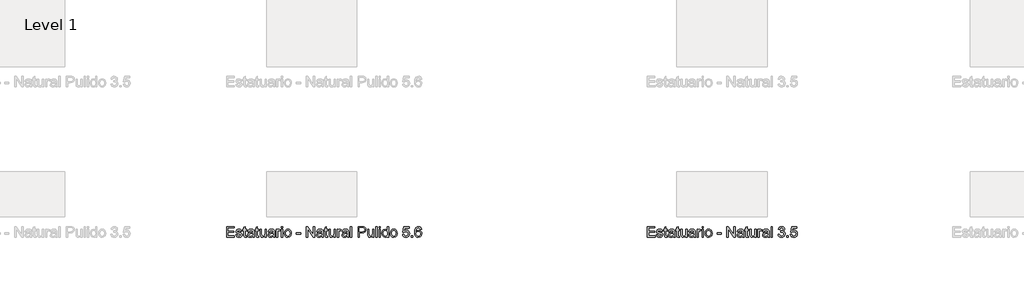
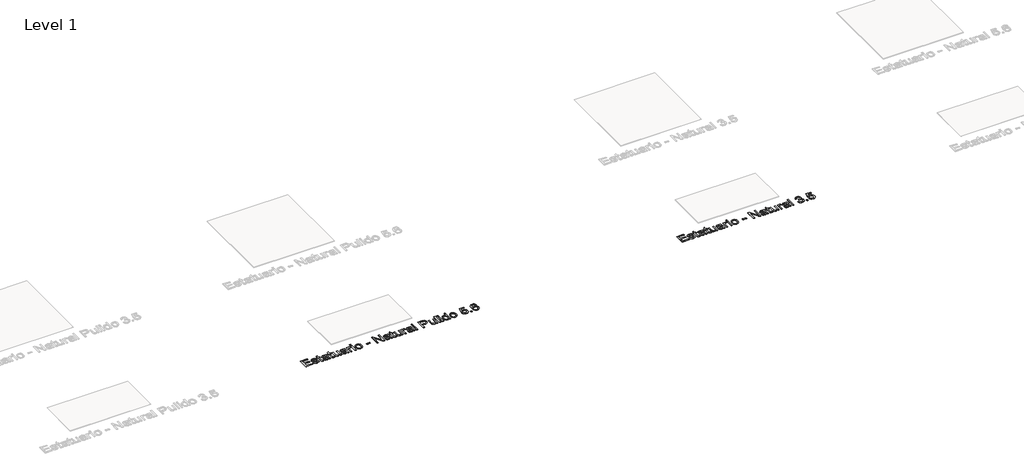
# One storey, part 72 of 80: 2 proxies.
"""IFC4 building model written with IfcOpenShell, lengths in millimetres."""

from ifc_helpers import new_model, si_unit, origin, origin_with_axes, place, context, project, spatial, polyline, outline, extrude, element, save

model = new_model("IFC4")

# Units and contexts
model_context = context("Model", 3, world=origin())
ifc_project = project(units=[si_unit("LENGTHUNIT", "METRE", prefix="MILLI")], contexts=[model_context])

# Site, building, storey
site = spatial("IfcSite", under=ifc_project)
building = spatial("IfcBuilding", under=site)
storey = spatial("IfcBuildingStorey", under=building, Name="Level 1", Elevation=0.0)

# Proxies
placement = place(None, origin())
element("IfcBuildingElementProxy", 1, Name="24\" Arial", ObjectType="24\" Arial", at=placement, inside=storey, context=model_context, shape_type="SweptSolid", body=[
    extrude(outline(polyline([(7830.1546613, 15588.6835141), (7830.1546613, 15706.8373603), (7915.0777383, 15706.8373603), (7915.0777383, 15692.0681295), (7844.9238921, 15692.0681295), (7844.9238921, 15656.9912064), (7911.3854306, 15656.9912064), (7911.3854306, 15642.2219757), (7844.9238921, 15642.2219757), (7844.9238921, 15603.4527449), (7916.9238921, 15603.4527449), (7916.9238921, 15588.6835141), (7830.1546613, 15588.6835141)])), origin_with_axes(), (0.0, 0.0, 1.0), 2.0),
    extrude(outline(polyline([(7931.6931229, 15614.529668), (7946.4623536, 15616.3758218), (7953.2988921, 15605.4142834), (7968.9623536, 15601.6065911), (7984.0200459, 15605.0969757), (7988.9238921, 15613.2892834), (7983.9911998, 15619.9238987), (7968.7892767, 15624.1354372), (7946.5488921, 15631.3613987), (7936.8421613, 15639.7988987), (7933.5392767, 15651.7123603), (7936.1931229, 15662.717168), (7943.4335075, 15671.1258218), (7952.8229306, 15675.4960141), (7965.5296613, 15677.2988987), (7983.5008152, 15674.3998603), (7994.9238921, 15666.5537064), (8000.0008152, 15653.2988987), (7985.2315844, 15651.4527449), (7979.6786998, 15659.6017834), (7966.6835075, 15662.529668), (7952.5488921, 15659.7315911), (7948.3085075, 15653.2123603), (7950.0681229, 15648.9142834), (7955.5777383, 15645.654668), (7968.2988921, 15642.5104372), (7989.9767767, 15635.5585141), (8000.0440844, 15627.6835141), (8003.6931229, 15614.8469757), (7999.409469, 15600.7123603), (7987.0488921, 15590.4575526), (7968.7604306, 15586.8373603), (7953.8686036, 15588.5825526), (7943.0008152, 15593.8181295), (7935.7460075, 15602.4863987), (7931.6931229, 15614.529668)])), origin_with_axes(), (0.0, 0.0, 1.0), 2.0),
    extrude(outline(polyline([(8051.6931229, 15601.0008218), (8053.5392767, 15588.2508218), (8042.4911998, 15586.8373603), (8030.1161998, 15589.2892834), (8023.9431229, 15595.7219757), (8022.1546613, 15612.4815911), (8022.1546613, 15660.6835141), (8011.0777383, 15660.6835141), (8011.0777383, 15675.4527449), (8022.1546613, 15675.4527449), (8022.1546613, 15696.5392834), (8036.9238921, 15705.2219757), (8036.9238921, 15675.4527449), (8051.6931229, 15675.4527449), (8051.6931229, 15660.6835141), (8036.9238921, 15660.6835141), (8036.9238921, 15612.9142834), (8037.7027383, 15605.2988987), (8040.2267767, 15602.6017834), (8045.2604306, 15601.6065911), (8051.6931229, 15601.0008218)])), origin_with_axes(), (0.0, 0.0, 1.0), 2.0),
    extrude(outline(polyline([(8121.846969, 15599.7604372), (8107.5248536, 15589.7508218), (8091.7027383, 15586.8373603), (8079.3601902, 15588.5897641), (8070.2556229, 15593.8469757), (8064.6414402, 15601.8301487), (8062.7700459, 15611.7604372), (8065.596969, 15623.4431295), (8073.0248536, 15631.9238987), (8083.3661998, 15636.7700526), (8096.1450459, 15638.9912064), (8121.7604306, 15644.0681295), (8121.846969, 15647.3565911), (8117.7796613, 15658.2604372), (8101.4527383, 15662.529668), (8086.5104306, 15659.6883218), (8079.3854306, 15649.6065911), (8064.6161998, 15651.4527449), (8071.0056229, 15665.8758218), (8083.8710075, 15674.3277449), (8103.3565844, 15677.2988987), (8121.2556229, 15674.6738987), (8131.3661998, 15668.0825526), (8135.8950459, 15658.0585141), (8136.6161998, 15645.1354372), (8136.6161998, 15626.7604372), (8137.3661998, 15601.1017834), (8140.3085075, 15588.6835141), (8125.5392767, 15588.6835141), (8121.846969, 15599.7604372)]), holes=[polyline([(8121.846969, 15629.2988987), (8098.0200459, 15624.7700526), (8085.3133152, 15622.3758218), (8079.5585075, 15618.4815911), (8077.5392767, 15612.7988987), (8081.9383152, 15604.8085141), (8094.846969, 15601.6065911), (8109.7892767, 15605.1402449), (8119.4238921, 15613.6931295), (8121.7604306, 15625.1162064), (8121.846969, 15629.2988987)])]), origin_with_axes(), (0.0, 0.0, 1.0), 2.0),
    extrude(outline(polyline([(8188.3085075, 15601.0008218), (8190.1546613, 15588.2508218), (8179.1065844, 15586.8373603), (8166.7315844, 15589.2892834), (8160.5585075, 15595.7219757), (8158.7700459, 15612.4815911), (8158.7700459, 15660.6835141), (8147.6931229, 15660.6835141), (8147.6931229, 15675.4527449), (8158.7700459, 15675.4527449), (8158.7700459, 15696.5392834), (8173.5392767, 15705.2219757), (8173.5392767, 15675.4527449), (8188.3085075, 15675.4527449), (8188.3085075, 15660.6835141), (8173.5392767, 15660.6835141), (8173.5392767, 15612.9142834), (8174.3181229, 15605.2988987), (8176.8421613, 15602.6017834), (8181.8758152, 15601.6065911), (8188.3085075, 15601.0008218)])), origin_with_axes(), (0.0, 0.0, 1.0), 2.0),
    extrude(outline(polyline([(8258.4623536, 15588.6835141), (8258.4623536, 15603.5969757), (8246.8950459, 15591.0272641), (8231.8085075, 15586.8373603), (8217.9190844, 15589.779668), (8208.3421613, 15597.1642834), (8203.9431229, 15608.0392834), (8203.0777383, 15621.7700526), (8203.0777383, 15675.4527449), (8217.846969, 15675.4527449), (8217.846969, 15628.7219757), (8218.7411998, 15613.6642834), (8224.5825459, 15604.8229372), (8235.5873536, 15601.6065911), (8247.9190844, 15604.8950526), (8256.0681229, 15613.8517834), (8258.4623536, 15630.3085141), (8258.4623536, 15675.4527449), (8273.2315844, 15675.4527449), (8273.2315844, 15588.6835141), (8258.4623536, 15588.6835141)])), origin_with_axes(), (0.0, 0.0, 1.0), 2.0),
    extrude(outline(polyline([(8348.9238921, 15599.7604372), (8334.6017767, 15589.7508218), (8318.7796613, 15586.8373603), (8306.4371133, 15588.5897641), (8297.3325459, 15593.8469757), (8291.7183633, 15601.8301487), (8289.846969, 15611.7604372), (8292.6738921, 15623.4431295), (8300.1017767, 15631.9238987), (8310.4431229, 15636.7700526), (8323.221969, 15638.9912064), (8348.8373536, 15644.0681295), (8348.9238921, 15647.3565911), (8344.8565844, 15658.2604372), (8328.5296613, 15662.529668), (8313.5873536, 15659.6883218), (8306.4623536, 15649.6065911), (8291.6931229, 15651.4527449), (8298.0825459, 15665.8758218), (8310.9479306, 15674.3277449), (8330.4335075, 15677.2988987), (8348.3325459, 15674.6738987), (8358.4431229, 15668.0825526), (8362.971969, 15658.0585141), (8363.6931229, 15645.1354372), (8363.6931229, 15626.7604372), (8364.4431229, 15601.1017834), (8367.3854306, 15588.6835141), (8352.6161998, 15588.6835141), (8348.9238921, 15599.7604372)]), holes=[polyline([(8348.9238921, 15629.2988987), (8325.096969, 15624.7700526), (8312.3902383, 15622.3758218), (8306.6354306, 15618.4815911), (8304.6161998, 15612.7988987), (8309.0152383, 15604.8085141), (8321.9238921, 15601.6065911), (8336.8661998, 15605.1402449), (8346.5008152, 15613.6931295), (8348.8373536, 15625.1162064), (8348.9238921, 15629.2988987)])]), origin_with_axes(), (0.0, 0.0, 1.0), 2.0),
    extrude(outline(polyline([(8384.0008152, 15588.6835141), (8384.0008152, 15675.4527449), (8396.9238921, 15675.4527449), (8396.9238921, 15662.6162064), (8406.096969, 15674.4431295), (8415.3277383, 15677.2988987), (8430.1546613, 15672.7412064), (8425.221969, 15659.5008218), (8414.8373536, 15662.529668), (8406.4863921, 15659.6162064), (8401.1642767, 15651.5392834), (8398.7700459, 15634.2892834), (8398.7700459, 15588.6835141), (8384.0008152, 15588.6835141)])), origin_with_axes(), (0.0, 0.0, 1.0), 2.0),
    extrude(outline(polyline([(8439.3854306, 15692.0681295), (8439.3854306, 15706.8373603), (8454.1546613, 15706.8373603), (8454.1546613, 15692.0681295), (8439.3854306, 15692.0681295)])), origin_with_axes(), (0.0, 0.0, 1.0), 2.0),
    extrude(outline(polyline([(8439.3854306, 15588.6835141), (8439.3854306, 15675.4527449), (8454.1546613, 15675.4527449), (8454.1546613, 15588.6835141), (8439.3854306, 15588.6835141)])), origin_with_axes(), (0.0, 0.0, 1.0), 2.0),
    extrude(outline(polyline([(8472.6161998, 15632.0681295), (8475.8109113, 15652.9888026), (8485.3950459, 15667.6931295), (8497.2363921, 15674.8974564), (8511.4142767, 15677.2988987), (8526.9299017, 15674.3746199), (8539.3229306, 15665.6017834), (8547.4467286, 15651.6726968), (8550.1546613, 15633.279668), (8545.3661998, 15607.0008218), (8531.4190844, 15592.1306295), (8511.4142767, 15586.8373603), (8495.7111517, 15589.7508218), (8483.3325459, 15598.4912064), (8475.2952863, 15612.7123603), (8472.6161998, 15632.0681295)]), holes=[polyline([(8487.3854306, 15632.0969757), (8489.0945652, 15618.7303891), (8494.221969, 15609.2075526), (8501.9383152, 15603.5068314), (8511.4142767, 15601.6065911), (8520.846969, 15603.5176487), (8528.5488921, 15609.2508218), (8533.6762959, 15618.8998603), (8535.3854306, 15632.5585141), (8533.6654786, 15645.5356776), (8528.5056229, 15654.9287064), (8520.7928825, 15660.6294276), (8511.4142767, 15662.529668), (8501.9383152, 15660.6366391), (8494.221969, 15654.9575526), (8489.0945652, 15645.4563507), (8487.3854306, 15632.0969757)])]), origin_with_axes(), (0.0, 0.0, 1.0), 2.0),
    extrude(outline(polyline([(8605.5392767, 15623.7604372), (8605.5392767, 15638.529668), (8651.6931229, 15638.529668), (8651.6931229, 15623.7604372), (8605.5392767, 15623.7604372)])), origin_with_axes(), (0.0, 0.0, 1.0), 2.0),
    extrude(outline(polyline([(8716.3085075, 15588.6835141), (8716.3085075, 15706.8373603), (8732.1161998, 15706.8373603), (8793.846969, 15613.2315911), (8793.846969, 15706.8373603), (8808.6161998, 15706.8373603), (8808.6161998, 15588.6835141), (8792.8085075, 15588.6835141), (8731.0777383, 15682.3181295), (8731.0777383, 15588.6835141), (8716.3085075, 15588.6835141)])), origin_with_axes(), (0.0, 0.0, 1.0), 2.0),
    extrude(outline(polyline([(8888.0008152, 15599.7604372), (8873.6786998, 15589.7508218), (8857.8565844, 15586.8373603), (8845.5140363, 15588.5897641), (8836.409469, 15593.8469757), (8830.7952863, 15601.8301487), (8828.9238921, 15611.7604372), (8831.7508152, 15623.4431295), (8839.1786998, 15631.9238987), (8849.5200459, 15636.7700526), (8862.2988921, 15638.9912064), (8887.9142767, 15644.0681295), (8888.0008152, 15647.3565911), (8883.9335075, 15658.2604372), (8867.6065844, 15662.529668), (8852.6642767, 15659.6883218), (8845.5392767, 15649.6065911), (8830.7700459, 15651.4527449), (8837.159469, 15665.8758218), (8850.0248536, 15674.3277449), (8869.5104306, 15677.2988987), (8887.409469, 15674.6738987), (8897.5200459, 15668.0825526), (8902.0488921, 15658.0585141), (8902.7700459, 15645.1354372), (8902.7700459, 15626.7604372), (8903.5200459, 15601.1017834), (8906.4623536, 15588.6835141), (8891.6931229, 15588.6835141), (8888.0008152, 15599.7604372)]), holes=[polyline([(8888.0008152, 15629.2988987), (8864.1738921, 15624.7700526), (8851.4671613, 15622.3758218), (8845.7123536, 15618.4815911), (8843.6931229, 15612.7988987), (8848.0921613, 15604.8085141), (8861.0008152, 15601.6065911), (8875.9431229, 15605.1402449), (8885.5777383, 15613.6931295), (8887.9142767, 15625.1162064), (8888.0008152, 15629.2988987)])]), origin_with_axes(), (0.0, 0.0, 1.0), 2.0),
    extrude(outline(polyline([(8954.4623536, 15601.0008218), (8956.3085075, 15588.2508218), (8945.2604306, 15586.8373603), (8932.8854306, 15589.2892834), (8926.7123536, 15595.7219757), (8924.9238921, 15612.4815911), (8924.9238921, 15660.6835141), (8913.846969, 15660.6835141), (8913.846969, 15675.4527449), (8924.9238921, 15675.4527449), (8924.9238921, 15696.5392834), (8939.6931229, 15705.2219757), (8939.6931229, 15675.4527449), (8954.4623536, 15675.4527449), (8954.4623536, 15660.6835141), (8939.6931229, 15660.6835141), (8939.6931229, 15612.9142834), (8940.471969, 15605.2988987), (8942.9960075, 15602.6017834), (8948.0296613, 15601.6065911), (8954.4623536, 15601.0008218)])), origin_with_axes(), (0.0, 0.0, 1.0), 2.0),
    extrude(outline(polyline([(9024.6161998, 15588.6835141), (9024.6161998, 15603.5969757), (9013.0488921, 15591.0272641), (8997.9623536, 15586.8373603), (8984.0729306, 15589.779668), (8974.4960075, 15597.1642834), (8970.096969, 15608.0392834), (8969.2315844, 15621.7700526), (8969.2315844, 15675.4527449), (8984.0008152, 15675.4527449), (8984.0008152, 15628.7219757), (8984.8950459, 15613.6642834), (8990.7363921, 15604.8229372), (9001.7411998, 15601.6065911), (9014.0729306, 15604.8950526), (9022.221969, 15613.8517834), (9024.6161998, 15630.3085141), (9024.6161998, 15675.4527449), (9039.3854306, 15675.4527449), (9039.3854306, 15588.6835141), (9024.6161998, 15588.6835141)])), origin_with_axes(), (0.0, 0.0, 1.0), 2.0),
    extrude(outline(polyline([(9059.6931229, 15588.6835141), (9059.6931229, 15675.4527449), (9072.6161998, 15675.4527449), (9072.6161998, 15662.6162064), (9081.7892767, 15674.4431295), (9091.0200459, 15677.2988987), (9105.846969, 15672.7412064), (9100.9142767, 15659.5008218), (9090.5296613, 15662.529668), (9082.1786998, 15659.6162064), (9076.8565844, 15651.5392834), (9074.4623536, 15634.2892834), (9074.4623536, 15588.6835141), (9059.6931229, 15588.6835141)])), origin_with_axes(), (0.0, 0.0, 1.0), 2.0),
    extrude(outline(polyline([(9170.4623536, 15599.7604372), (9156.1402383, 15589.7508218), (9140.3181229, 15586.8373603), (9127.9755748, 15588.5897641), (9118.8710075, 15593.8469757), (9113.2568248, 15601.8301487), (9111.3854306, 15611.7604372), (9114.2123536, 15623.4431295), (9121.6402383, 15631.9238987), (9131.9815844, 15636.7700526), (9144.7604306, 15638.9912064), (9170.3758152, 15644.0681295), (9170.4623536, 15647.3565911), (9166.3950459, 15658.2604372), (9150.0681229, 15662.529668), (9135.1258152, 15659.6883218), (9128.0008152, 15649.6065911), (9113.2315844, 15651.4527449), (9119.6210075, 15665.8758218), (9132.4863921, 15674.3277449), (9151.971969, 15677.2988987), (9169.8710075, 15674.6738987), (9179.9815844, 15668.0825526), (9184.5104306, 15658.0585141), (9185.2315844, 15645.1354372), (9185.2315844, 15626.7604372), (9185.9815844, 15601.1017834), (9188.9238921, 15588.6835141), (9174.1546613, 15588.6835141), (9170.4623536, 15599.7604372)]), holes=[polyline([(9170.4623536, 15629.2988987), (9146.6354306, 15624.7700526), (9133.9286998, 15622.3758218), (9128.1738921, 15618.4815911), (9126.1546613, 15612.7988987), (9130.5536998, 15604.8085141), (9143.4623536, 15601.6065911), (9158.4046613, 15605.1402449), (9168.0392767, 15613.6931295), (9170.3758152, 15625.1162064), (9170.4623536, 15629.2988987)])]), origin_with_axes(), (0.0, 0.0, 1.0), 2.0),
    extrude(outline(polyline([(9205.5392767, 15588.6835141), (9205.5392767, 15706.8373603), (9220.3085075, 15706.8373603), (9220.3085075, 15588.6835141), (9205.5392767, 15588.6835141)])), origin_with_axes(), (0.0, 0.0, 1.0), 2.0),
    extrude(outline(polyline([(9290.4623536, 15588.6835141), (9290.4623536, 15706.8373603), (9334.2508152, 15706.8373603), (9351.9046613, 15705.7123603), (9366.2556229, 15700.1883218), (9375.5585075, 15688.7652449), (9379.0777383, 15672.654668), (9376.7015363, 15658.7291872), (9369.5729306, 15647.1258218), (9356.2424017, 15639.2940911), (9335.2604306, 15636.6835141), (9305.2315844, 15636.6835141), (9305.2315844, 15588.6835141), (9290.4623536, 15588.6835141)]), holes=[polyline([(9305.2315844, 15651.4527449), (9336.1258152, 15651.4527449), (9349.221969, 15652.8085141), (9357.8758152, 15656.8758218), (9362.7003344, 15663.4022641), (9364.3085075, 15672.1354372), (9360.5152383, 15684.3662064), (9350.5488921, 15691.0585141), (9335.7796613, 15692.0681295), (9305.2315844, 15692.0681295), (9305.2315844, 15651.4527449)])]), origin_with_axes(), (0.0, 0.0, 1.0), 2.0),
    extrude(outline(polyline([(9452.9238921, 15588.6835141), (9452.9238921, 15603.5969757), (9441.3565844, 15591.0272641), (9426.2700459, 15586.8373603), (9412.3806229, 15589.779668), (9402.8036998, 15597.1642834), (9398.4046613, 15608.0392834), (9397.5392767, 15621.7700526), (9397.5392767, 15675.4527449), (9412.3085075, 15675.4527449), (9412.3085075, 15628.7219757), (9413.2027383, 15613.6642834), (9419.0440844, 15604.8229372), (9430.0488921, 15601.6065911), (9442.3806229, 15604.8950526), (9450.5296613, 15613.8517834), (9452.9238921, 15630.3085141), (9452.9238921, 15675.4527449), (9467.6931229, 15675.4527449), (9467.6931229, 15588.6835141), (9452.9238921, 15588.6835141)])), origin_with_axes(), (0.0, 0.0, 1.0), 2.0),
    extrude(outline(polyline([(9488.0008152, 15588.6835141), (9488.0008152, 15706.8373603), (9502.7700459, 15706.8373603), (9502.7700459, 15588.6835141), (9488.0008152, 15588.6835141)])), origin_with_axes(), (0.0, 0.0, 1.0), 2.0),
    extrude(outline(polyline([(9524.9238921, 15692.0681295), (9524.9238921, 15706.8373603), (9539.6931229, 15706.8373603), (9539.6931229, 15692.0681295), (9524.9238921, 15692.0681295)])), origin_with_axes(), (0.0, 0.0, 1.0), 2.0),
    extrude(outline(polyline([(9524.9238921, 15588.6835141), (9524.9238921, 15675.4527449), (9539.6931229, 15675.4527449), (9539.6931229, 15588.6835141), (9524.9238921, 15588.6835141)])), origin_with_axes(), (0.0, 0.0, 1.0), 2.0),
    extrude(outline(polyline([(9615.3854306, 15588.6835141), (9615.3854306, 15602.6162064), (9605.6137959, 15590.7820718), (9592.1065844, 15586.8373603), (9573.8181229, 15592.5488987), (9560.8950459, 15608.4863987), (9556.3085075, 15631.9815911), (9560.534469, 15655.4912064), (9565.8133152, 15664.8157257), (9573.1979306, 15671.6738987), (9592.0488921, 15677.2988987), (9605.6642767, 15673.2748603), (9615.3854306, 15662.8181295), (9615.3854306, 15706.8373603), (9630.1546613, 15706.8373603), (9630.1546613, 15588.6835141), (9615.3854306, 15588.6835141)]), holes=[polyline([(9571.0777383, 15632.0392834), (9572.7436036, 15618.6799084), (9577.7411998, 15609.1787064), (9585.003219, 15603.4996199), (9593.4623536, 15601.6065911), (9601.9178825, 15603.4130814), (9608.9960075, 15608.8325526), (9613.7880748, 15617.9659661), (9615.3854306, 15630.9142834), (9613.7592286, 15645.0705334), (9608.8806229, 15654.8854372), (9601.6222094, 15660.6186103), (9592.8565844, 15662.529668), (9584.3109113, 15660.6943314), (9577.3085075, 15655.1883218), (9572.6354306, 15645.7303891), (9571.0777383, 15632.0392834)])]), origin_with_axes(), (0.0, 0.0, 1.0), 2.0),
    extrude(outline(polyline([(9648.6161998, 15632.0681295), (9651.8109113, 15652.9888026), (9661.3950459, 15667.6931295), (9673.2363921, 15674.8974564), (9687.4142767, 15677.2988987), (9702.9299017, 15674.3746199), (9715.3229306, 15665.6017834), (9723.4467286, 15651.6726968), (9726.1546613, 15633.279668), (9721.3661998, 15607.0008218), (9707.4190844, 15592.1306295), (9687.4142767, 15586.8373603), (9671.7111517, 15589.7508218), (9659.3325459, 15598.4912064), (9651.2952863, 15612.7123603), (9648.6161998, 15632.0681295)]), holes=[polyline([(9663.3854306, 15632.0969757), (9665.0945652, 15618.7303891), (9670.221969, 15609.2075526), (9677.9383152, 15603.5068314), (9687.4142767, 15601.6065911), (9696.846969, 15603.5176487), (9704.5488921, 15609.2508218), (9709.6762959, 15618.8998603), (9711.3854306, 15632.5585141), (9709.6654786, 15645.5356776), (9704.5056229, 15654.9287064), (9696.7928825, 15660.6294276), (9687.4142767, 15662.529668), (9677.9383152, 15660.6366391), (9670.221969, 15654.9575526), (9665.0945652, 15645.4563507), (9663.3854306, 15632.0969757)])]), origin_with_axes(), (0.0, 0.0, 1.0), 2.0),
    extrude(outline(polyline([(9785.2315844, 15620.0681295), (9800.0008152, 15621.9142834), (9807.4431229, 15606.6979372), (9822.8758152, 15601.6065911), (9833.4623536, 15603.3770237), (9841.3950459, 15608.6883218), (9846.3493729, 15616.9275045), (9848.0008152, 15627.4815911), (9846.4539402, 15637.4190911), (9841.8133152, 15645.0200526), (9834.0428825, 15649.8445718), (9823.1065844, 15651.4527449), (9810.1402383, 15648.8854372), (9801.846969, 15642.2219757), (9787.0777383, 15644.0681295), (9800.0008152, 15704.9912064), (9857.2315844, 15704.9912064), (9857.2315844, 15690.2219757), (9811.9431229, 15690.2219757), (9805.6258152, 15657.6835141), (9816.1762959, 15664.0873603), (9827.2315844, 15666.2219757), (9841.0308633, 15663.5753411), (9852.4863921, 15655.6354372), (9860.1991325, 15643.5344757), (9862.7700459, 15628.404668), (9860.4551421, 15613.6354372), (9853.5104306, 15601.0008218), (9840.2123536, 15590.3782257), (9822.8181229, 15586.8373603), (9808.3121133, 15589.1126007), (9796.7556229, 15595.9383218), (9788.8337479, 15606.5212545), (9785.2315844, 15620.0681295)])), origin_with_axes(), (0.0, 0.0, 1.0), 2.0),
    extrude(outline(polyline([(9883.0777383, 15588.6835141), (9883.0777383, 15603.4527449), (9897.846969, 15603.4527449), (9897.846969, 15588.6835141), (9883.0777383, 15588.6835141)])), origin_with_axes(), (0.0, 0.0, 1.0), 2.0),
    extrude(outline(polyline([(9997.5392767, 15675.4527449), (9982.7700459, 15673.6065911), (9977.1738921, 15685.9238987), (9970.4743729, 15690.5320718), (9962.3758152, 15692.0681295), (9949.0488921, 15688.4912064), (9938.9671613, 15675.0633218), (9934.7700459, 15648.7412064), (9947.7940844, 15660.5248603), (9963.9335075, 15664.3758218), (9977.5777383, 15661.7436103), (9989.0296613, 15653.8469757), (9996.7964883, 15641.7820718), (9999.3854306, 15626.6450526), (9994.5104306, 15606.2652449), (9981.096969, 15591.842168), (9961.7411998, 15586.8373603), (9944.9851902, 15590.154668), (9931.6402383, 15600.1065911), (9922.9106709, 15617.6738987), (9920.0008152, 15643.8373603), (9923.2315844, 15673.2532257), (9932.9238921, 15693.3662064), (9946.1570652, 15703.4695718), (9963.2988921, 15706.8373603), (9976.2580267, 15704.7532257), (9986.6354306, 15698.5008218), (9993.9046613, 15688.5705334), (9997.5392767, 15675.4527449)]), holes=[polyline([(9934.7700459, 15626.8758218), (9938.1883152, 15614.0825526), (9947.2748536, 15604.7940911), (9960.5873536, 15601.6065911), (9970.3337479, 15603.2580334), (9977.9960075, 15608.2123603), (9982.9611517, 15616.0008218), (9984.6161998, 15626.154668), (9982.9827863, 15635.9010622), (9978.0825459, 15643.3325526), (9970.2904786, 15648.0380814), (9959.9815844, 15649.6065911), (9950.2496133, 15648.0380814), (9942.1113921, 15643.3325526), (9936.6053825, 15636.0813507), (9934.7700459, 15626.8758218)])]), origin_with_axes(), (0.0, 0.0, 1.0), 2.0),
])
element("IfcBuildingElementProxy", 2, Name="24\" Arial", ObjectType="24\" Arial", at=placement, inside=storey, context=model_context, shape_type="SweptSolid", body=[
    extrude(outline(polyline([(12503.6931229, 15588.6835141), (12503.6931229, 15706.8373603), (12588.6161998, 15706.8373603), (12588.6161998, 15692.0681295), (12518.4623536, 15692.0681295), (12518.4623536, 15656.9912064), (12584.9238921, 15656.9912064), (12584.9238921, 15642.2219757), (12518.4623536, 15642.2219757), (12518.4623536, 15603.4527449), (12590.4623536, 15603.4527449), (12590.4623536, 15588.6835141), (12503.6931229, 15588.6835141)])), origin_with_axes(), (0.0, 0.0, 1.0), 2.0),
    extrude(outline(polyline([(12605.2315844, 15614.529668), (12620.0008152, 15616.3758218), (12626.8373536, 15605.4142834), (12642.5008152, 15601.6065911), (12657.5585075, 15605.0969757), (12662.4623536, 15613.2892834), (12657.5296613, 15619.9238987), (12642.3277383, 15624.1354372), (12620.0873536, 15631.3613987), (12610.3806229, 15639.7988987), (12607.0777383, 15651.7123603), (12609.7315844, 15662.717168), (12616.971969, 15671.1258218), (12626.3613921, 15675.4960141), (12639.0681229, 15677.2988987), (12657.0392767, 15674.3998603), (12668.4623536, 15666.5537064), (12673.5392767, 15653.2988987), (12658.7700459, 15651.4527449), (12653.2171613, 15659.6017834), (12640.221969, 15662.529668), (12626.0873536, 15659.7315911), (12621.846969, 15653.2123603), (12623.6065844, 15648.9142834), (12629.1161998, 15645.654668), (12641.8373536, 15642.5104372), (12663.5152383, 15635.5585141), (12673.5825459, 15627.6835141), (12677.2315844, 15614.8469757), (12672.9479306, 15600.7123603), (12660.5873536, 15590.4575526), (12642.2988921, 15586.8373603), (12627.4070652, 15588.5825526), (12616.5392767, 15593.8181295), (12609.284469, 15602.4863987), (12605.2315844, 15614.529668)])), origin_with_axes(), (0.0, 0.0, 1.0), 2.0),
    extrude(outline(polyline([(12725.2315844, 15601.0008218), (12727.0777383, 15588.2508218), (12716.0296613, 15586.8373603), (12703.6546613, 15589.2892834), (12697.4815844, 15595.7219757), (12695.6931229, 15612.4815911), (12695.6931229, 15660.6835141), (12684.6161998, 15660.6835141), (12684.6161998, 15675.4527449), (12695.6931229, 15675.4527449), (12695.6931229, 15696.5392834), (12710.4623536, 15705.2219757), (12710.4623536, 15675.4527449), (12725.2315844, 15675.4527449), (12725.2315844, 15660.6835141), (12710.4623536, 15660.6835141), (12710.4623536, 15612.9142834), (12711.2411998, 15605.2988987), (12713.7652383, 15602.6017834), (12718.7988921, 15601.6065911), (12725.2315844, 15601.0008218)])), origin_with_axes(), (0.0, 0.0, 1.0), 2.0),
    extrude(outline(polyline([(12795.3854306, 15599.7604372), (12781.0633152, 15589.7508218), (12765.2411998, 15586.8373603), (12752.8986517, 15588.5897641), (12743.7940844, 15593.8469757), (12738.1799017, 15601.8301487), (12736.3085075, 15611.7604372), (12739.1354306, 15623.4431295), (12746.5633152, 15631.9238987), (12756.9046613, 15636.7700526), (12769.6835075, 15638.9912064), (12795.2988921, 15644.0681295), (12795.3854306, 15647.3565911), (12791.3181229, 15658.2604372), (12774.9911998, 15662.529668), (12760.0488921, 15659.6883218), (12752.9238921, 15649.6065911), (12738.1546613, 15651.4527449), (12744.5440844, 15665.8758218), (12757.409469, 15674.3277449), (12776.8950459, 15677.2988987), (12794.7940844, 15674.6738987), (12804.9046613, 15668.0825526), (12809.4335075, 15658.0585141), (12810.1546613, 15645.1354372), (12810.1546613, 15626.7604372), (12810.9046613, 15601.1017834), (12813.846969, 15588.6835141), (12799.0777383, 15588.6835141), (12795.3854306, 15599.7604372)]), holes=[polyline([(12795.3854306, 15629.2988987), (12771.5585075, 15624.7700526), (12758.8517767, 15622.3758218), (12753.096969, 15618.4815911), (12751.0777383, 15612.7988987), (12755.4767767, 15604.8085141), (12768.3854306, 15601.6065911), (12783.3277383, 15605.1402449), (12792.9623536, 15613.6931295), (12795.2988921, 15625.1162064), (12795.3854306, 15629.2988987)])]), origin_with_axes(), (0.0, 0.0, 1.0), 2.0),
    extrude(outline(polyline([(12861.846969, 15601.0008218), (12863.6931229, 15588.2508218), (12852.6450459, 15586.8373603), (12840.2700459, 15589.2892834), (12834.096969, 15595.7219757), (12832.3085075, 15612.4815911), (12832.3085075, 15660.6835141), (12821.2315844, 15660.6835141), (12821.2315844, 15675.4527449), (12832.3085075, 15675.4527449), (12832.3085075, 15696.5392834), (12847.0777383, 15705.2219757), (12847.0777383, 15675.4527449), (12861.846969, 15675.4527449), (12861.846969, 15660.6835141), (12847.0777383, 15660.6835141), (12847.0777383, 15612.9142834), (12847.8565844, 15605.2988987), (12850.3806229, 15602.6017834), (12855.4142767, 15601.6065911), (12861.846969, 15601.0008218)])), origin_with_axes(), (0.0, 0.0, 1.0), 2.0),
    extrude(outline(polyline([(12932.0008152, 15588.6835141), (12932.0008152, 15603.5969757), (12920.4335075, 15591.0272641), (12905.346969, 15586.8373603), (12891.4575459, 15589.779668), (12881.8806229, 15597.1642834), (12877.4815844, 15608.0392834), (12876.6161998, 15621.7700526), (12876.6161998, 15675.4527449), (12891.3854306, 15675.4527449), (12891.3854306, 15628.7219757), (12892.2796613, 15613.6642834), (12898.1210075, 15604.8229372), (12909.1258152, 15601.6065911), (12921.4575459, 15604.8950526), (12929.6065844, 15613.8517834), (12932.0008152, 15630.3085141), (12932.0008152, 15675.4527449), (12946.7700459, 15675.4527449), (12946.7700459, 15588.6835141), (12932.0008152, 15588.6835141)])), origin_with_axes(), (0.0, 0.0, 1.0), 2.0),
    extrude(outline(polyline([(13022.4623536, 15599.7604372), (13008.1402383, 15589.7508218), (12992.3181229, 15586.8373603), (12979.9755748, 15588.5897641), (12970.8710075, 15593.8469757), (12965.2568248, 15601.8301487), (12963.3854306, 15611.7604372), (12966.2123536, 15623.4431295), (12973.6402383, 15631.9238987), (12983.9815844, 15636.7700526), (12996.7604306, 15638.9912064), (13022.3758152, 15644.0681295), (13022.4623536, 15647.3565911), (13018.3950459, 15658.2604372), (13002.0681229, 15662.529668), (12987.1258152, 15659.6883218), (12980.0008152, 15649.6065911), (12965.2315844, 15651.4527449), (12971.6210075, 15665.8758218), (12984.4863921, 15674.3277449), (13003.971969, 15677.2988987), (13021.8710075, 15674.6738987), (13031.9815844, 15668.0825526), (13036.5104306, 15658.0585141), (13037.2315844, 15645.1354372), (13037.2315844, 15626.7604372), (13037.9815844, 15601.1017834), (13040.9238921, 15588.6835141), (13026.1546613, 15588.6835141), (13022.4623536, 15599.7604372)]), holes=[polyline([(13022.4623536, 15629.2988987), (12998.6354306, 15624.7700526), (12985.9286998, 15622.3758218), (12980.1738921, 15618.4815911), (12978.1546613, 15612.7988987), (12982.5536998, 15604.8085141), (12995.4623536, 15601.6065911), (13010.4046613, 15605.1402449), (13020.0392767, 15613.6931295), (13022.3758152, 15625.1162064), (13022.4623536, 15629.2988987)])]), origin_with_axes(), (0.0, 0.0, 1.0), 2.0),
    extrude(outline(polyline([(13057.5392767, 15588.6835141), (13057.5392767, 15675.4527449), (13070.4623536, 15675.4527449), (13070.4623536, 15662.6162064), (13079.6354306, 15674.4431295), (13088.8661998, 15677.2988987), (13103.6931229, 15672.7412064), (13098.7604306, 15659.5008218), (13088.3758152, 15662.529668), (13080.0248536, 15659.6162064), (13074.7027383, 15651.5392834), (13072.3085075, 15634.2892834), (13072.3085075, 15588.6835141), (13057.5392767, 15588.6835141)])), origin_with_axes(), (0.0, 0.0, 1.0), 2.0),
    extrude(outline(polyline([(13112.9238921, 15692.0681295), (13112.9238921, 15706.8373603), (13127.6931229, 15706.8373603), (13127.6931229, 15692.0681295), (13112.9238921, 15692.0681295)])), origin_with_axes(), (0.0, 0.0, 1.0), 2.0),
    extrude(outline(polyline([(13112.9238921, 15588.6835141), (13112.9238921, 15675.4527449), (13127.6931229, 15675.4527449), (13127.6931229, 15588.6835141), (13112.9238921, 15588.6835141)])), origin_with_axes(), (0.0, 0.0, 1.0), 2.0),
    extrude(outline(polyline([(13146.1546613, 15632.0681295), (13149.3493729, 15652.9888026), (13158.9335075, 15667.6931295), (13170.7748536, 15674.8974564), (13184.9527383, 15677.2988987), (13200.4683633, 15674.3746199), (13212.8613921, 15665.6017834), (13220.9851902, 15651.6726968), (13223.6931229, 15633.279668), (13218.9046613, 15607.0008218), (13204.9575459, 15592.1306295), (13184.9527383, 15586.8373603), (13169.2496133, 15589.7508218), (13156.8710075, 15598.4912064), (13148.8337479, 15612.7123603), (13146.1546613, 15632.0681295)]), holes=[polyline([(13160.9238921, 15632.0969757), (13162.6330267, 15618.7303891), (13167.7604306, 15609.2075526), (13175.4767767, 15603.5068314), (13184.9527383, 15601.6065911), (13194.3854306, 15603.5176487), (13202.0873536, 15609.2508218), (13207.2147575, 15618.8998603), (13208.9238921, 15632.5585141), (13207.2039402, 15645.5356776), (13202.0440844, 15654.9287064), (13194.331344, 15660.6294276), (13184.9527383, 15662.529668), (13175.4767767, 15660.6366391), (13167.7604306, 15654.9575526), (13162.6330267, 15645.4563507), (13160.9238921, 15632.0969757)])]), origin_with_axes(), (0.0, 0.0, 1.0), 2.0),
    extrude(outline(polyline([(13279.0777383, 15623.7604372), (13279.0777383, 15638.529668), (13325.2315844, 15638.529668), (13325.2315844, 15623.7604372), (13279.0777383, 15623.7604372)])), origin_with_axes(), (0.0, 0.0, 1.0), 2.0),
    extrude(outline(polyline([(13389.846969, 15588.6835141), (13389.846969, 15706.8373603), (13405.6546613, 15706.8373603), (13467.3854306, 15613.2315911), (13467.3854306, 15706.8373603), (13482.1546613, 15706.8373603), (13482.1546613, 15588.6835141), (13466.346969, 15588.6835141), (13404.6161998, 15682.3181295), (13404.6161998, 15588.6835141), (13389.846969, 15588.6835141)])), origin_with_axes(), (0.0, 0.0, 1.0), 2.0),
    extrude(outline(polyline([(13561.5392767, 15599.7604372), (13547.2171613, 15589.7508218), (13531.3950459, 15586.8373603), (13519.0524979, 15588.5897641), (13509.9479306, 15593.8469757), (13504.3337479, 15601.8301487), (13502.4623536, 15611.7604372), (13505.2892767, 15623.4431295), (13512.7171613, 15631.9238987), (13523.0585075, 15636.7700526), (13535.8373536, 15638.9912064), (13561.4527383, 15644.0681295), (13561.5392767, 15647.3565911), (13557.471969, 15658.2604372), (13541.1450459, 15662.529668), (13526.2027383, 15659.6883218), (13519.0777383, 15649.6065911), (13504.3085075, 15651.4527449), (13510.6979306, 15665.8758218), (13523.5633152, 15674.3277449), (13543.0488921, 15677.2988987), (13560.9479306, 15674.6738987), (13571.0585075, 15668.0825526), (13575.5873536, 15658.0585141), (13576.3085075, 15645.1354372), (13576.3085075, 15626.7604372), (13577.0585075, 15601.1017834), (13580.0008152, 15588.6835141), (13565.2315844, 15588.6835141), (13561.5392767, 15599.7604372)]), holes=[polyline([(13561.5392767, 15629.2988987), (13537.7123536, 15624.7700526), (13525.0056229, 15622.3758218), (13519.2508152, 15618.4815911), (13517.2315844, 15612.7988987), (13521.6306229, 15604.8085141), (13534.5392767, 15601.6065911), (13549.4815844, 15605.1402449), (13559.1161998, 15613.6931295), (13561.4527383, 15625.1162064), (13561.5392767, 15629.2988987)])]), origin_with_axes(), (0.0, 0.0, 1.0), 2.0),
    extrude(outline(polyline([(13628.0008152, 15601.0008218), (13629.846969, 15588.2508218), (13618.7988921, 15586.8373603), (13606.4238921, 15589.2892834), (13600.2508152, 15595.7219757), (13598.4623536, 15612.4815911), (13598.4623536, 15660.6835141), (13587.3854306, 15660.6835141), (13587.3854306, 15675.4527449), (13598.4623536, 15675.4527449), (13598.4623536, 15696.5392834), (13613.2315844, 15705.2219757), (13613.2315844, 15675.4527449), (13628.0008152, 15675.4527449), (13628.0008152, 15660.6835141), (13613.2315844, 15660.6835141), (13613.2315844, 15612.9142834), (13614.0104306, 15605.2988987), (13616.534469, 15602.6017834), (13621.5681229, 15601.6065911), (13628.0008152, 15601.0008218)])), origin_with_axes(), (0.0, 0.0, 1.0), 2.0),
    extrude(outline(polyline([(13698.1546613, 15588.6835141), (13698.1546613, 15603.5969757), (13686.5873536, 15591.0272641), (13671.5008152, 15586.8373603), (13657.6113921, 15589.779668), (13648.034469, 15597.1642834), (13643.6354306, 15608.0392834), (13642.7700459, 15621.7700526), (13642.7700459, 15675.4527449), (13657.5392767, 15675.4527449), (13657.5392767, 15628.7219757), (13658.4335075, 15613.6642834), (13664.2748536, 15604.8229372), (13675.2796613, 15601.6065911), (13687.6113921, 15604.8950526), (13695.7604306, 15613.8517834), (13698.1546613, 15630.3085141), (13698.1546613, 15675.4527449), (13712.9238921, 15675.4527449), (13712.9238921, 15588.6835141), (13698.1546613, 15588.6835141)])), origin_with_axes(), (0.0, 0.0, 1.0), 2.0),
    extrude(outline(polyline([(13733.2315844, 15588.6835141), (13733.2315844, 15675.4527449), (13746.1546613, 15675.4527449), (13746.1546613, 15662.6162064), (13755.3277383, 15674.4431295), (13764.5585075, 15677.2988987), (13779.3854306, 15672.7412064), (13774.4527383, 15659.5008218), (13764.0681229, 15662.529668), (13755.7171613, 15659.6162064), (13750.3950459, 15651.5392834), (13748.0008152, 15634.2892834), (13748.0008152, 15588.6835141), (13733.2315844, 15588.6835141)])), origin_with_axes(), (0.0, 0.0, 1.0), 2.0),
    extrude(outline(polyline([(13844.0008152, 15599.7604372), (13829.6786998, 15589.7508218), (13813.8565844, 15586.8373603), (13801.5140363, 15588.5897641), (13792.409469, 15593.8469757), (13786.7952863, 15601.8301487), (13784.9238921, 15611.7604372), (13787.7508152, 15623.4431295), (13795.1786998, 15631.9238987), (13805.5200459, 15636.7700526), (13818.2988921, 15638.9912064), (13843.9142767, 15644.0681295), (13844.0008152, 15647.3565911), (13839.9335075, 15658.2604372), (13823.6065844, 15662.529668), (13808.6642767, 15659.6883218), (13801.5392767, 15649.6065911), (13786.7700459, 15651.4527449), (13793.159469, 15665.8758218), (13806.0248536, 15674.3277449), (13825.5104306, 15677.2988987), (13843.409469, 15674.6738987), (13853.5200459, 15668.0825526), (13858.0488921, 15658.0585141), (13858.7700459, 15645.1354372), (13858.7700459, 15626.7604372), (13859.5200459, 15601.1017834), (13862.4623536, 15588.6835141), (13847.6931229, 15588.6835141), (13844.0008152, 15599.7604372)]), holes=[polyline([(13844.0008152, 15629.2988987), (13820.1738921, 15624.7700526), (13807.4671613, 15622.3758218), (13801.7123536, 15618.4815911), (13799.6931229, 15612.7988987), (13804.0921613, 15604.8085141), (13817.0008152, 15601.6065911), (13831.9431229, 15605.1402449), (13841.5777383, 15613.6931295), (13843.9142767, 15625.1162064), (13844.0008152, 15629.2988987)])]), origin_with_axes(), (0.0, 0.0, 1.0), 2.0),
    extrude(outline(polyline([(13879.0777383, 15588.6835141), (13879.0777383, 15706.8373603), (13893.846969, 15706.8373603), (13893.846969, 15588.6835141), (13879.0777383, 15588.6835141)])), origin_with_axes(), (0.0, 0.0, 1.0), 2.0),
    extrude(outline(polyline([(13958.4623536, 15620.0681295), (13973.2315844, 15621.9142834), (13981.3806229, 15606.3662064), (13996.6258152, 15601.6065911), (14006.7508152, 15603.2436103), (14014.5681229, 15608.154668), (14019.565719, 15615.4815911), (14021.2315844, 15624.3662064), (14019.5801421, 15632.8001007), (14014.6258152, 15639.6402449), (14007.1258152, 15644.1726968), (13997.8373536, 15645.6835141), (13987.4815844, 15644.0681295), (13989.1258152, 15658.8373603), (13991.4911998, 15658.6642834), (14008.2508152, 15662.904668), (14013.8325459, 15668.2844757), (14015.6931229, 15675.9431295), (14010.2988921, 15687.4960141), (13996.3950459, 15692.0681295), (13982.3181229, 15687.4527449), (13975.0777383, 15673.6065911), (13960.3085075, 15675.4527449), (13964.6570652, 15688.7147641), (13972.3950459, 15698.6162064), (13982.9815844, 15704.7820718), (13995.8758152, 15706.8373603), (14013.6883152, 15702.7844757), (14026.1498536, 15691.7075526), (14030.4623536, 15676.8085141), (14026.3661998, 15663.1931295), (14014.2508152, 15653.4142834), (14023.4960075, 15649.6787064), (14030.346969, 15643.3181295), (14034.5873536, 15634.6787064), (14036.0008152, 15624.1065911), (14033.1738921, 15609.7123603), (14024.6931229, 15597.6835141), (14011.8926421, 15589.5488987), (13996.1065844, 15586.8373603), (13981.8277383, 15589.1522641), (13970.2027383, 15596.0969757), (13962.1186036, 15606.7195718), (13958.4623536, 15620.0681295)])), origin_with_axes(), (0.0, 0.0, 1.0), 2.0),
    extrude(outline(polyline([(14056.3085075, 15588.6835141), (14056.3085075, 15603.4527449), (14071.0777383, 15603.4527449), (14071.0777383, 15588.6835141), (14056.3085075, 15588.6835141)])), origin_with_axes(), (0.0, 0.0, 1.0), 2.0),
    extrude(outline(polyline([(14095.0777383, 15620.0681295), (14109.846969, 15621.9142834), (14117.2892767, 15606.6979372), (14132.721969, 15601.6065911), (14143.3085075, 15603.3770237), (14151.2411998, 15608.6883218), (14156.1955267, 15616.9275045), (14157.846969, 15627.4815911), (14156.300094, 15637.4190911), (14151.659469, 15645.0200526), (14143.8890363, 15649.8445718), (14132.9527383, 15651.4527449), (14119.9863921, 15648.8854372), (14111.6931229, 15642.2219757), (14096.9238921, 15644.0681295), (14109.846969, 15704.9912064), (14167.0777383, 15704.9912064), (14167.0777383, 15690.2219757), (14121.7892767, 15690.2219757), (14115.471969, 15657.6835141), (14126.0224498, 15664.0873603), (14137.0777383, 15666.2219757), (14150.8770171, 15663.5753411), (14162.3325459, 15655.6354372), (14170.0452863, 15643.5344757), (14172.6161998, 15628.404668), (14170.3012959, 15613.6354372), (14163.3565844, 15601.0008218), (14150.0585075, 15590.3782257), (14132.6642767, 15586.8373603), (14118.1582671, 15589.1126007), (14106.6017767, 15595.9383218), (14098.6799017, 15606.5212545), (14095.0777383, 15620.0681295)])), origin_with_axes(), (0.0, 0.0, 1.0), 2.0),
])

save(model, "model.ifc")
